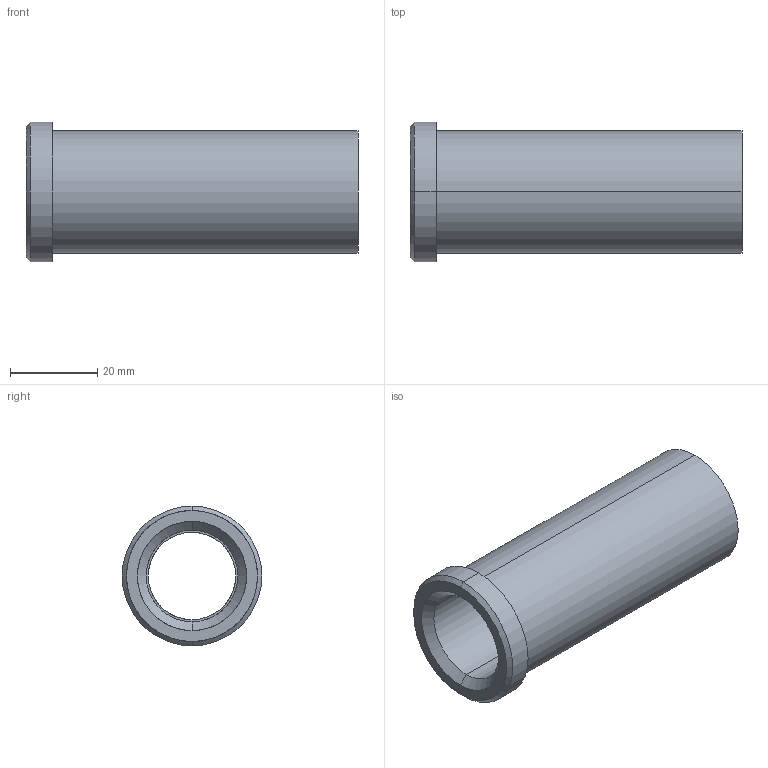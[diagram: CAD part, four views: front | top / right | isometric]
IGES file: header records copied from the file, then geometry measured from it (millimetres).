
Start section: START RECORD GO HERE.
Global section: file name: 353-20X76.igs; native system: DASSAULT SYSTEMES CATIA V5 R20 - www.3ds.com; preprocessor: CATIA Version 5 Release 20 ; author: Utente; organization: NB04-ASUS; date: 20210508.105500; units: millimetre
Bounding box: 76 x 32 x 32 mm (x, y, z)
Surface area: 12457.5 mm2 (no closed solid volume)
Topology: 0 solids, 0 shells, 18 faces, 116 edges, 116 vertices
Faces by surface type: revolution 14, plane 4
